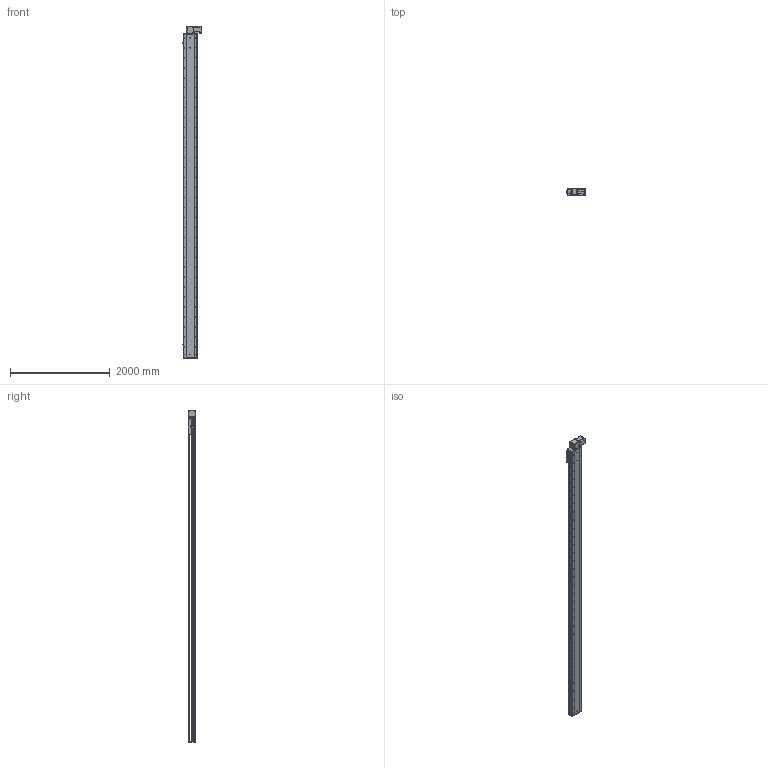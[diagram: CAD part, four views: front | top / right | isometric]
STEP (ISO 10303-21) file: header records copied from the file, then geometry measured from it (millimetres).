
FILE_DESCRIPTION (( 'STEP AP214' ), '1' );
FILE_NAME ('RTB28S-XX-6050-BL-M100-XX-C4.STEP', '2025-12-22T02:59:51', ( '' ), ( '' ), 'SwSTEP 2.0', 'SolidWorks 2018', '' );
FILE_SCHEMA (( 'AUTOMOTIVE_DESIGN' ));
Length unit declared in the file: millimetre
Products named in the file (4): RTB28S-GY-004^RTB28S-XX-XX-BL-M100-XX-C4; RTB28S-GY-011^RTB28S-XX-XX-BL-M100-XX-C4; RTB28S-XX-6050-BL-M100-XX-C4; RTB28S-GY-008^RTB28S-XX-XX-BL-M100-XX-C4
Assembly tree (3 placements, depth 2):
  RTB28S-XX-6050-BL-M100-XX-C4
    RTB28S-GY-011^RTB28S-XX-XX-BL-M100-XX-C4
    RTB28S-GY-004^RTB28S-XX-XX-BL-M100-XX-C4
    RTB28S-GY-008^RTB28S-XX-XX-BL-M100-XX-C4
Bounding box: 380.7 x 145 x 6657 mm (x, y, z)
Volume: 109144492.3 mm3; surface area: 10037403 mm2
Topology: 3 solids, 4 shells, 1038 faces, 2838 edges, 1828 vertices
Faces by surface type: cylinder 559, plane 395, cone 80, torus 4
Entity records: 41663 total; most frequent: CARTESIAN_POINT 8752, DIRECTION 6072, ORIENTED_EDGE 5612, EDGE_CURVE 2806, AXIS2_PLACEMENT_3D 2296, VERTEX_POINT 1828, LINE 1480, VECTOR 1480
